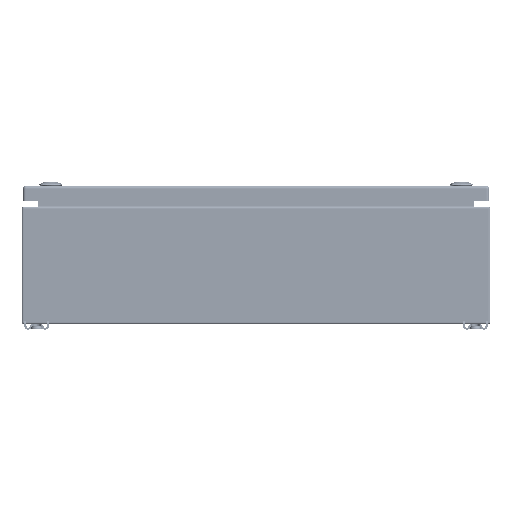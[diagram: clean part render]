
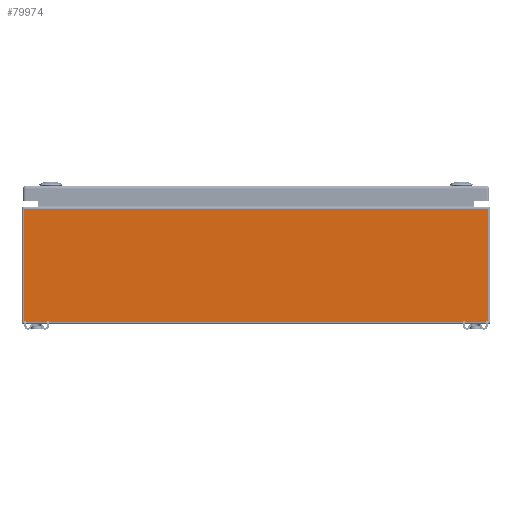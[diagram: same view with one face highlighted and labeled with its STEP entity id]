
A CAD part, front view. The second image highlights one B-rep face of the part: STEP entity #79974.
In plain terms, the highlighted planar face has unit normal (0, -1, 0).
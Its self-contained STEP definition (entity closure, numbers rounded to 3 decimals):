
#10633=FACE_OUTER_BOUND('',#15400,.T.);
#15400=EDGE_LOOP('',(#53265,#53266,#53267,#53268));
#20554=LINE('',#111966,#26458);
#20561=LINE('',#111981,#26465);
#20563=LINE('',#111988,#26467);
#20565=LINE('',#111997,#26469);
#26458=VECTOR('',#92605,0.394);
#26465=VECTOR('',#92618,0.394);
#26467=VECTOR('',#92626,0.394);
#26469=VECTOR('',#92638,0.394);
#32347=VERTEX_POINT('',#111936);
#32354=VERTEX_POINT('',#111962);
#32359=VERTEX_POINT('',#111980);
#32361=VERTEX_POINT('',#111986);
#40511=EDGE_CURVE('',#32347,#32354,#20554,.T.);
#40518=EDGE_CURVE('',#32354,#32359,#20561,.T.);
#40522=EDGE_CURVE('',#32361,#32347,#20563,.T.);
#40527=EDGE_CURVE('',#32361,#32359,#20565,.T.);
#53265=ORIENTED_EDGE('',*,*,#40511,.F.);
#53266=ORIENTED_EDGE('',*,*,#40522,.F.);
#53267=ORIENTED_EDGE('',*,*,#40527,.T.);
#53268=ORIENTED_EDGE('',*,*,#40518,.F.);
#77983=PLANE('',#85711);
#79974=ADVANCED_FACE('',(#10633),#77983,.F.);
#85711=AXIS2_PLACEMENT_3D('',#112008,#92652,#92653);
#92605=DIRECTION('',(1.,0.,0.));
#92618=DIRECTION('',(0.,0.,-1.));
#92626=DIRECTION('',(0.,0.,1.));
#92638=DIRECTION('',(1.,0.,0.));
#92652=DIRECTION('center_axis',(0.,1.,0.));
#92653=DIRECTION('ref_axis',(0.,0.,1.));
#111936=CARTESIAN_POINT('',(-11.916,-18.,5.916));
#111962=CARTESIAN_POINT('',(11.916,-18.,5.916));
#111966=CARTESIAN_POINT('',(5.979,-18.,5.916));
#111980=CARTESIAN_POINT('',(11.916,-18.,0.084));
#111981=CARTESIAN_POINT('',(11.916,-18.,3.));
#111986=CARTESIAN_POINT('',(-11.916,-18.,0.084));
#111988=CARTESIAN_POINT('',(-11.916,-18.,3.));
#111997=CARTESIAN_POINT('',(-5.958,-18.,0.084));
#112008=CARTESIAN_POINT('Origin',(0.,-18.,3.));
